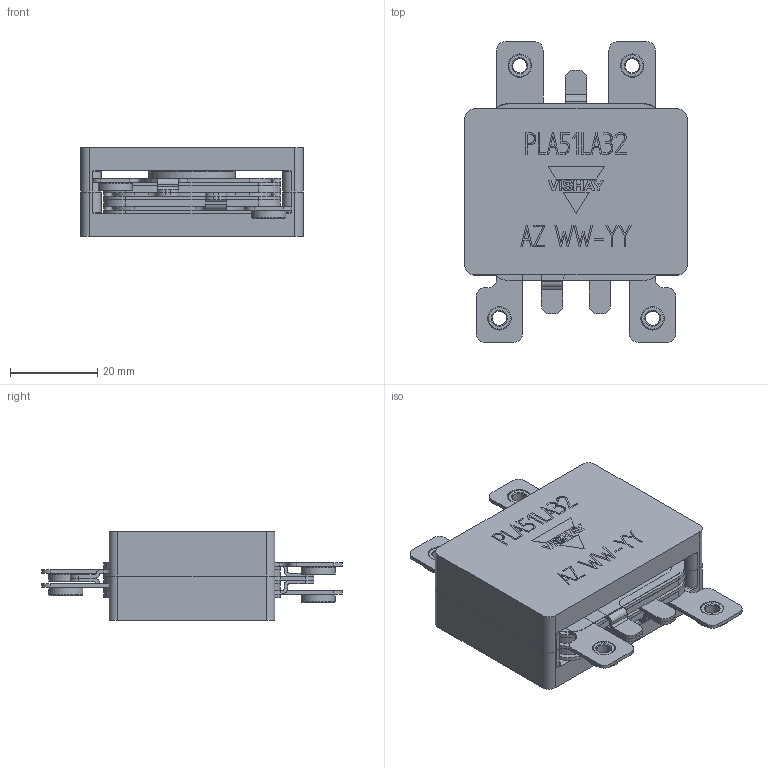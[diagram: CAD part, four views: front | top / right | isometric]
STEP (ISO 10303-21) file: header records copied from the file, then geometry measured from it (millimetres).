
FILE_DESCRIPTION( ( 'Unknown' ), '1' );
FILE_NAME( 'I:/Dev_Inductive/00_Etudes_BE/Suivi_Technique/DEVIS/Devis-BE-2012/A121128_VALEO-PLANAR 2kW/PROTOTYPES/CATALOGUE/CATALOGUE/160707_PLA51LA32_CAO3D.stp', '24/06/2016', ( 'SMARCHIO' ), ( 'VISHAY' ), 'PSStep 17.0.49', 'Unknown', ' ' );
FILE_SCHEMA( ( 'AUTOMOTIVE_DESIGN { 1 0 10303 214 1 1 1 1 }' ) );
Length unit declared in the file: millimetre
Products named in the file (9): Assem1; ZA121128_00_FERRITE ER51; ZA121128_T08M; ZA130328_T01-LEAD FRAME 1; ZA130328_T02-LEAD FRAME 2; ZA130328_T03-LEAD FRAME 3; ZA121128_T09_NOMEX; INSERT M4; ZA121128_00_FERRITE ER51 - Copie
Assembly tree (18 placements, depth 2):
  Assem1
    ZA121128_00_FERRITE ER51  x2
    ZA121128_T08M  x5
    ZA130328_T01-LEAD FRAME 1  x2
    ZA130328_T02-LEAD FRAME 2  x2
    ZA130328_T03-LEAD FRAME 3
    ZA121128_T09_NOMEX
    INSERT M4  x4
    ZA121128_00_FERRITE ER51 - Copie
Bounding box: 51 x 69 x 20.32 mm (x, y, z)
Volume: 50788.9 mm3; surface area: 46820 mm2
Topology: 18 solids, 18 shells, 853 faces, 2222 edges, 1475 vertices
Faces by surface type: plane 603, cylinder 129, cone 70, extrusion 36, torus 15
Full cylindrical faces by diameter (mm): 3.242 x4, 5.38 x4, 5.41 x4, 7.9 x4, 20 x3, 20.8 x1
Entity records: 16460 total; most frequent: CARTESIAN_POINT 3349, ORIENTED_EDGE 2138, DIRECTION 1700, EDGE_CURVE 1069, VERTEX_POINT 719, AXIS2_PLACEMENT_3D 604, VECTOR 492, EDGE_LOOP 476
